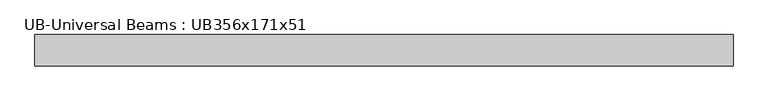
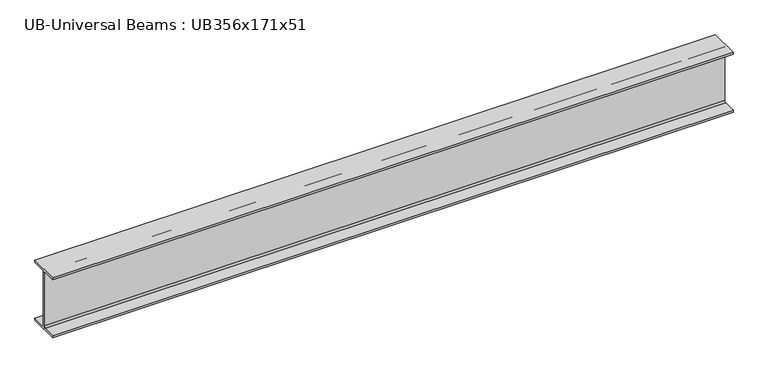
"""IFC4 building model written with IfcOpenShell, lengths in millimetres: beam geometry, UB-Universal Beams : UB356x171x51."""

from ifc_helpers import new_model, si_unit, point, frame, frame_2d, origin, place, context, project, spatial, polyline, circle_curve, trimmed, segment, composite_curve, outline, extrude, source, transform, mapped, element, save


def ub_universal_beams_ub356x171x51_6f605231(model_context):
    return source(origin(), model_context, "Body", "SweptSolid", [
        extrude(outline(composite_curve([segment(polyline([(85.75, -166.0), (85.75, -177.5), (-85.75, -177.5), (-85.75, -166.0), (-13.9, -166.0)]), True, "CONTINUOUS"), segment(trimmed(circle_curve(frame_2d((-13.9, -155.8)), 10.2), [point((-13.9, -166.0))], [point((-3.7, -155.8))], True, "CARTESIAN"), True, "CONTINUOUS"), segment(polyline([(-3.7, -155.8), (-3.7, 155.8)]), True, "CONTINUOUS"), segment(trimmed(circle_curve(frame_2d((-13.9, 155.8)), 10.2), [point((-3.7, 155.8))], [point((-13.9, 166.0))], True, "CARTESIAN"), True, "CONTINUOUS"), segment(polyline([(-13.9, 166.0), (-85.75, 166.0), (-85.75, 177.5), (85.75, 177.5), (85.75, 166.0), (13.9, 166.0)]), True, "CONTINUOUS"), segment(trimmed(circle_curve(frame_2d((13.9, 155.8)), 10.2), [point((13.9, 166.0))], [point((3.7, 155.8))], True, "CARTESIAN"), True, "CONTINUOUS"), segment(polyline([(3.7, 155.8), (3.7, -155.8)]), True, "CONTINUOUS"), segment(trimmed(circle_curve(frame_2d((13.9, -155.8)), 10.2), [point((3.7, -155.8))], [point((13.9, -166.0))], True, "CARTESIAN"), True, "CONTINUOUS"), segment(polyline([(13.9, -166.0), (85.75, -166.0)]), True, "CONTINUOUS")], self_intersect=False)), frame((-1878.05, 0.0, 0.0), z_axis=(1.0, 0.0, 0.0), x_axis=(0.0, 1.0, 0.0)), (0.0, 0.0, 1.0), 3818.8),
    ])


if __name__ == "__main__":
    model = new_model("IFC4")
    model_context = context("Model", 3, world=origin())
    ifc_project = project(units=[si_unit("LENGTHUNIT", "METRE", prefix="MILLI")], contexts=[model_context])
    site = spatial("IfcSite", under=ifc_project)
    building = spatial("IfcBuilding", under=site)
    placement = place(None, origin())
    ub_universal_beams_ub356x171x51_shape = ub_universal_beams_ub356x171x51_6f605231(model_context)
    element("IfcBeam", 1, ObjectType="UB-Universal Beams : UB356x171x51", at=placement, inside=building, context=model_context, shape_type="MappedRepresentation", body=[
        mapped(ub_universal_beams_ub356x171x51_shape, transform((0.0, 0.0, 0.0), x_axis=(1.0, 0.0, 0.0), y_axis=(0.0, 1.0, 0.0), z_axis=(0.0, 0.0, 1.0))),
    ])
    save(model, "model.ifc")
